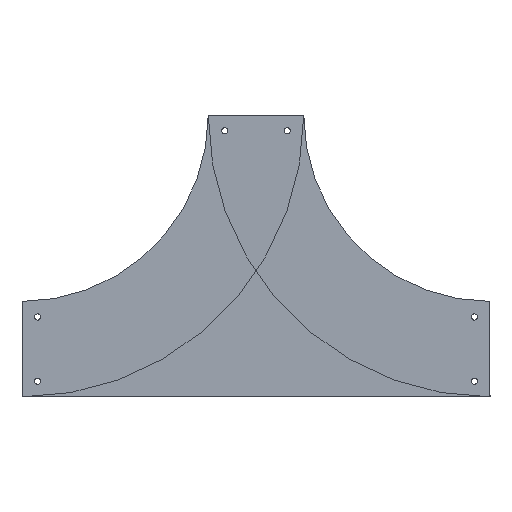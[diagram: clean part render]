
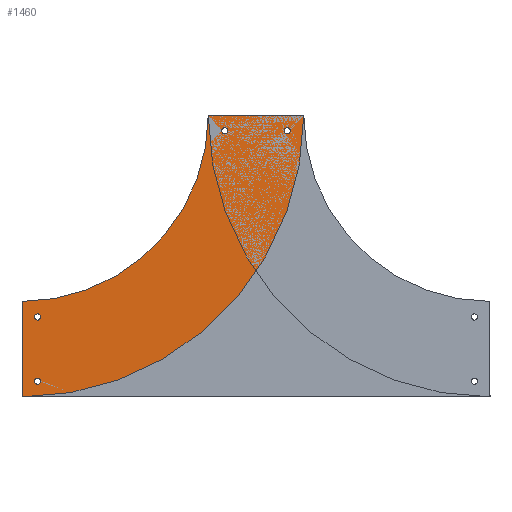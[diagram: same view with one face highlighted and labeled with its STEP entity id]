
A CAD part, top view. The second image highlights one B-rep face of the part: STEP entity #1460.
In plain terms, the highlighted planar face has unit normal (0, 0, 1).
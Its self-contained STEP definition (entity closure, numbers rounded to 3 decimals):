
#89=FACE_BOUND('',#365,.T.);
#90=FACE_BOUND('',#366,.T.);
#91=FACE_BOUND('',#367,.T.);
#92=FACE_BOUND('',#368,.T.);
#149=CIRCLE('',#1604,451.5);
#150=CIRCLE('',#1605,298.5);
#151=CIRCLE('',#1606,5.);
#152=CIRCLE('',#1607,5.);
#153=CIRCLE('',#1608,5.);
#154=CIRCLE('',#1609,5.);
#155=CIRCLE('',#1610,5.);
#156=CIRCLE('',#1611,5.);
#157=CIRCLE('',#1612,5.);
#158=CIRCLE('',#1613,5.);
#268=FACE_OUTER_BOUND('',#364,.T.);
#364=EDGE_LOOP('',(#1224,#1225,#1226,#1227));
#365=EDGE_LOOP('',(#1228,#1229));
#366=EDGE_LOOP('',(#1230,#1231));
#367=EDGE_LOOP('',(#1232,#1233));
#368=EDGE_LOOP('',(#1234,#1235));
#488=LINE('',#2427,#602);
#492=LINE('',#2436,#606);
#602=VECTOR('',#1972,304.8);
#606=VECTOR('',#1978,304.8);
#718=VERTEX_POINT('',#2425);
#719=VERTEX_POINT('',#2426);
#722=VERTEX_POINT('',#2434);
#723=VERTEX_POINT('',#2435);
#726=VERTEX_POINT('',#2445);
#727=VERTEX_POINT('',#2446);
#728=VERTEX_POINT('',#2449);
#729=VERTEX_POINT('',#2450);
#730=VERTEX_POINT('',#2453);
#731=VERTEX_POINT('',#2454);
#732=VERTEX_POINT('',#2457);
#733=VERTEX_POINT('',#2458);
#892=EDGE_CURVE('',#718,#719,#488,.T.);
#896=EDGE_CURVE('',#722,#723,#492,.T.);
#900=EDGE_CURVE('',#718,#723,#149,.T.);
#901=EDGE_CURVE('',#722,#719,#150,.T.);
#902=EDGE_CURVE('',#726,#727,#151,.T.);
#903=EDGE_CURVE('',#727,#726,#152,.T.);
#904=EDGE_CURVE('',#728,#729,#153,.T.);
#905=EDGE_CURVE('',#729,#728,#154,.T.);
#906=EDGE_CURVE('',#730,#731,#155,.T.);
#907=EDGE_CURVE('',#731,#730,#156,.T.);
#908=EDGE_CURVE('',#732,#733,#157,.T.);
#909=EDGE_CURVE('',#733,#732,#158,.T.);
#1224=ORIENTED_EDGE('',*,*,#892,.F.);
#1225=ORIENTED_EDGE('',*,*,#900,.T.);
#1226=ORIENTED_EDGE('',*,*,#896,.F.);
#1227=ORIENTED_EDGE('',*,*,#901,.T.);
#1228=ORIENTED_EDGE('',*,*,#902,.T.);
#1229=ORIENTED_EDGE('',*,*,#903,.T.);
#1230=ORIENTED_EDGE('',*,*,#904,.T.);
#1231=ORIENTED_EDGE('',*,*,#905,.T.);
#1232=ORIENTED_EDGE('',*,*,#906,.T.);
#1233=ORIENTED_EDGE('',*,*,#907,.T.);
#1234=ORIENTED_EDGE('',*,*,#908,.T.);
#1235=ORIENTED_EDGE('',*,*,#909,.T.);
#1396=PLANE('',#1603);
#1460=ADVANCED_FACE('',(#268,#89,#90,#91,#92),#1396,.T.);
#1603=AXIS2_PLACEMENT_3D('',#2442,#1982,#1983);
#1604=AXIS2_PLACEMENT_3D('',#2443,#1984,#1985);
#1605=AXIS2_PLACEMENT_3D('',#2444,#1986,#1987);
#1606=AXIS2_PLACEMENT_3D('',#2447,#1988,#1989);
#1607=AXIS2_PLACEMENT_3D('',#2448,#1990,#1991);
#1608=AXIS2_PLACEMENT_3D('',#2451,#1992,#1993);
#1609=AXIS2_PLACEMENT_3D('',#2452,#1994,#1995);
#1610=AXIS2_PLACEMENT_3D('',#2455,#1996,#1997);
#1611=AXIS2_PLACEMENT_3D('',#2456,#1998,#1999);
#1612=AXIS2_PLACEMENT_3D('',#2459,#2000,#2001);
#1613=AXIS2_PLACEMENT_3D('',#2460,#2002,#2003);
#1972=DIRECTION('',(0.,1.,0.));
#1978=DIRECTION('',(1.,0.,0.));
#1982=DIRECTION('center_axis',(0.,0.,1.));
#1983=DIRECTION('ref_axis',(0.,-1.,0.));
#1984=DIRECTION('center_axis',(0.,0.,1.));
#1985=DIRECTION('ref_axis',(0.,-1.,0.));
#1986=DIRECTION('center_axis',(0.,0.,-1.));
#1987=DIRECTION('ref_axis',(0.,-1.,0.));
#1988=DIRECTION('center_axis',(0.,0.,-1.));
#1989=DIRECTION('ref_axis',(1.,0.,0.));
#1990=DIRECTION('center_axis',(0.,0.,-1.));
#1991=DIRECTION('ref_axis',(1.,0.,0.));
#1992=DIRECTION('center_axis',(0.,0.,-1.));
#1993=DIRECTION('ref_axis',(1.,0.,0.));
#1994=DIRECTION('center_axis',(0.,0.,-1.));
#1995=DIRECTION('ref_axis',(1.,0.,0.));
#1996=DIRECTION('center_axis',(0.,0.,-1.));
#1997=DIRECTION('ref_axis',(1.,0.,0.));
#1998=DIRECTION('center_axis',(0.,0.,-1.));
#1999=DIRECTION('ref_axis',(1.,0.,0.));
#2000=DIRECTION('center_axis',(0.,0.,-1.));
#2001=DIRECTION('ref_axis',(1.,0.,0.));
#2002=DIRECTION('center_axis',(0.,0.,-1.));
#2003=DIRECTION('ref_axis',(1.,0.,0.));
#2425=CARTESIAN_POINT('',(-375.,-76.5,1.5));
#2426=CARTESIAN_POINT('',(-375.,76.5,1.5));
#2427=CARTESIAN_POINT('',(-375.,-76.5,1.5));
#2434=CARTESIAN_POINT('',(-76.5,375.,1.5));
#2435=CARTESIAN_POINT('',(76.5,375.,1.5));
#2436=CARTESIAN_POINT('',(-76.5,375.,1.5));
#2442=CARTESIAN_POINT('Origin',(-375.,375.,1.5));
#2443=CARTESIAN_POINT('Origin',(-375.,375.,1.5));
#2444=CARTESIAN_POINT('Origin',(-375.,375.,1.5));
#2445=CARTESIAN_POINT('',(-345.,-51.5,1.5));
#2446=CARTESIAN_POINT('',(-355.,-51.5,1.5));
#2447=CARTESIAN_POINT('Origin',(-350.,-51.5,1.5));
#2448=CARTESIAN_POINT('Origin',(-350.,-51.5,1.5));
#2449=CARTESIAN_POINT('',(-345.,51.5,1.5));
#2450=CARTESIAN_POINT('',(-355.,51.5,1.5));
#2451=CARTESIAN_POINT('Origin',(-350.,51.5,1.5));
#2452=CARTESIAN_POINT('Origin',(-350.,51.5,1.5));
#2453=CARTESIAN_POINT('',(-45.,350.,1.5));
#2454=CARTESIAN_POINT('',(-55.,350.,1.5));
#2455=CARTESIAN_POINT('Origin',(-50.,350.,1.5));
#2456=CARTESIAN_POINT('Origin',(-50.,350.,1.5));
#2457=CARTESIAN_POINT('',(55.,350.,1.5));
#2458=CARTESIAN_POINT('',(45.,350.,1.5));
#2459=CARTESIAN_POINT('Origin',(50.,350.,1.5));
#2460=CARTESIAN_POINT('Origin',(50.,350.,1.5));
